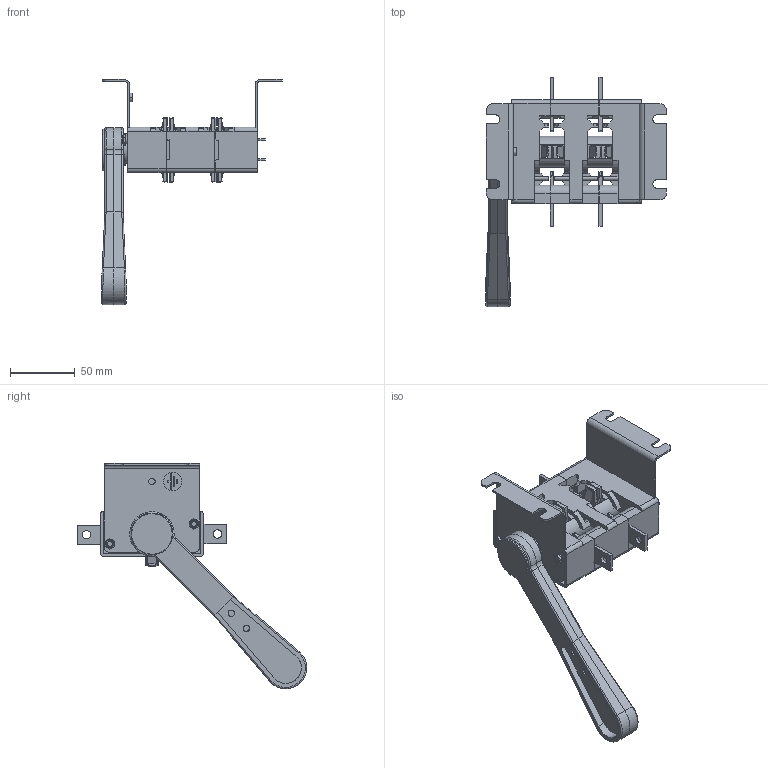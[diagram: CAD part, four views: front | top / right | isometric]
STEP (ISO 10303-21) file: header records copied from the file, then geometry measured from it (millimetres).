
FILE_DESCRIPTION (( 'STEP AP214' ), '1' );
FILE_NAME ('ﾂﾐ32-31 ﾃﾆﾈﾊ.642423.007 (ﾀ20220-100ﾀ).STEP', '2023-04-19T11:53:14', ( '' ), ( '' ), 'SwSTEP 2.0', 'SolidWorks 2018', '' );
FILE_SCHEMA (( 'AUTOMOTIVE_DESIGN' ));
Length unit declared in the file: millimetre
Products named in the file (26): ﾂ鏆鮏 ﾃﾆﾈﾊ.745485.002; Ñêîáà ÃÆÈÊ.745326.032_“áâ ­®¢«¥­­®¥ á®áâ; Òàáëè÷êà äëÿ ñáîðêè ÷èñòàÿ; Ðóêîÿòêà ÃÆÈÊ.303658.015; Êîðïóñ ñðåäíèé ÃÆÈÊ.735384.080; 想囫蜩磬_闷仁.745355.027; Êîðïóñ ëåâûé ÃÆÈÊ.735384.081; 想囫蜩磬_闷仁.745355.029; Çàãëóøêà ÃÆÈÊ.735211.002_â¥å­®«®£¨ç¥áª ï; Áîêîâèíà ëåâàÿ ÃÆÈÊ.735224.023; ﾘ琺矜 4; Ãàéêà Ì4; ﾂﾐ32-31 ﾃﾆﾈﾊ.642423.007 (ﾀ20220-100ﾀ); 想囫蜩磬_闷仁.301714.003蚜; Øïèëüêà ñïåöèàëüíàÿ ÃÆÈÊ.754292.014_2 ¯®«îá ; ﾏ跖浯 ﾃﾆﾈﾊ.753553.010; 澡犟囹铕 闷仁.745484.014; Êîíòàêò ïîäâèæíûé ÃÆÈÊ.745355.054; Áîêîâèíà ïðàâàÿ ÃÆÈÊ.735224.022; Âàë ÃÆÈÊ.715274.009_ƒ†ˆŠ.715274.009; Îáîëî÷êà 100-400À; ﾂ琿 ﾃﾆﾈﾊ.303731.003; 暑痫篑 镳噔 闷仁.735384.079
Assembly tree (37 placements, depth 4):
  Ñêîáà ÃÆÈÊ.745326.032_“áâ ­®¢«¥­­®¥ á®áâ
  ﾂﾐ32-31 ﾃﾆﾈﾊ.642423.007 (ﾀ20220-100ﾀ)
    暑痫篑 镳噔 闷仁.735384.079
    Êîðïóñ ñðåäíèé ÃÆÈÊ.735384.080
    Áîêîâèíà ïðàâàÿ ÃÆÈÊ.735224.022
    Ãàéêà Ì4  x2
    ﾘ琺矜 4  x2
    Øïèëüêà ñïåöèàëüíàÿ ÃÆÈÊ.754292.014_2 ¯®«îá   x2
    ﾂ鏆鮏 ﾃﾆﾈﾊ.745485.002  x4
    Òàáëè÷êà äëÿ ñáîðêè ÷èñòàÿ
    Ðóêîÿòêà ÃÆÈÊ.303658.015
      Îáîëî÷êà 100-400À
      想囫蜩磬_闷仁.301714.003蚜
        想囫蜩磬_闷仁.745355.027
        想囫蜩磬_闷仁.745355.029
    Çàãëóøêà ÃÆÈÊ.735211.002_â¥å­®«®£¨ç¥áª ï
    ﾂ琿 ﾃﾆﾈﾊ.303731.003
      Âàë ÃÆÈÊ.715274.009_ƒ†ˆŠ.715274.009
      Êîíòàêò ïîäâèæíûé ÃÆÈÊ.745355.054  x4
      Ñêîáà ÃÆÈÊ.745326.032_“áâ ­®¢«¥­­®¥ á®áâ  x4
      Ñêîáà ÃÆÈÊ.745326.032_“áâ ­®¢«¥­­®¥ á®áâ
    ﾏ跖浯 ﾃﾆﾈﾊ.753553.010  x2
    澡犟囹铕 闷仁.745484.014  x2
    Êîðïóñ ëåâûé ÃÆÈÊ.735384.081
    Áîêîâèíà ëåâàÿ ÃÆÈÊ.735224.023
  Êîíòàêò ïîäâèæíûé ÃÆÈÊ.745355.054
Bounding box: 139.69 x 177.04 x 173.98 mm (x, y, z)
Volume: 214956.5 mm3; surface area: 149225.2 mm2
Topology: 34 solids, 34 shells, 1510 faces, 3919 edges, 2517 vertices
Faces by surface type: plane 871, cylinder 523, bspline 59, cone 36, torus 21
Entity records: 41803 total; most frequent: CARTESIAN_POINT 12101, DIRECTION 5999, ORIENTED_EDGE 5898, EDGE_CURVE 2949, AXIS2_PLACEMENT_3D 2070, VERTEX_POINT 1911, LINE 1859, VECTOR 1859
